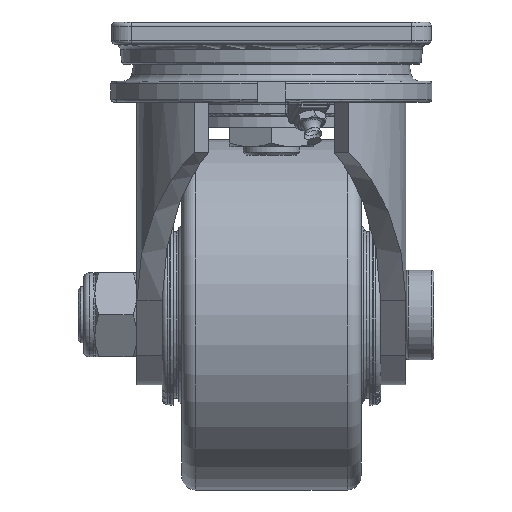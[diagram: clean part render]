
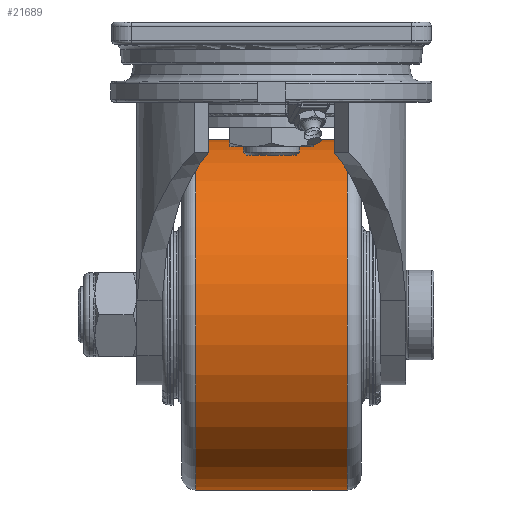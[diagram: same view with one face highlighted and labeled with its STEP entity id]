
A CAD part, left-side view. The second image highlights one B-rep face of the part: STEP entity #21689.
In plain terms, the highlighted cylindrical face has radius 62.5 mm (diameter 125 mm), a full revolution.
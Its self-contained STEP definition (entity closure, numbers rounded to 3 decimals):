
#2126=LINE('',#30266,#3757);
#3757=VECTOR('',#24981,62.5);
#5325=CYLINDRICAL_SURFACE('',#23057,62.5);
#5560=FACE_OUTER_BOUND('',#6845,.T.);
#6845=EDGE_LOOP('',(#14957,#14958,#14959,#14960,#14961,#14962));
#8234=CIRCLE('',#23054,62.5);
#8235=CIRCLE('',#23055,62.5);
#8237=CIRCLE('',#23058,62.5);
#8238=CIRCLE('',#23059,62.5);
#9148=VERTEX_POINT('',#30256);
#9149=VERTEX_POINT('',#30257);
#9150=VERTEX_POINT('',#30262);
#9151=VERTEX_POINT('',#30263);
#11403=EDGE_CURVE('',#9148,#9149,#8234,.T.);
#11404=EDGE_CURVE('',#9149,#9148,#8235,.T.);
#11406=EDGE_CURVE('',#9150,#9151,#8237,.T.);
#11407=EDGE_CURVE('',#9151,#9150,#8238,.T.);
#11408=EDGE_CURVE('',#9151,#9149,#2126,.T.);
#14957=ORIENTED_EDGE('',*,*,#11406,.F.);
#14958=ORIENTED_EDGE('',*,*,#11407,.F.);
#14959=ORIENTED_EDGE('',*,*,#11408,.T.);
#14960=ORIENTED_EDGE('',*,*,#11404,.T.);
#14961=ORIENTED_EDGE('',*,*,#11403,.T.);
#14962=ORIENTED_EDGE('',*,*,#11408,.F.);
#21689=ADVANCED_FACE('',(#5560),#5325,.T.);
#23054=AXIS2_PLACEMENT_3D('',#30258,#24969,#24970);
#23055=AXIS2_PLACEMENT_3D('',#30259,#24971,#24972);
#23057=AXIS2_PLACEMENT_3D('',#30261,#24975,#24976);
#23058=AXIS2_PLACEMENT_3D('',#30264,#24977,#24978);
#23059=AXIS2_PLACEMENT_3D('',#30265,#24979,#24980);
#24969=DIRECTION('center_axis',(0.,-1.,0.));
#24970=DIRECTION('ref_axis',(1.,0.,0.));
#24971=DIRECTION('center_axis',(0.,-1.,0.));
#24972=DIRECTION('ref_axis',(1.,0.,0.));
#24975=DIRECTION('center_axis',(0.,-1.,0.));
#24976=DIRECTION('ref_axis',(0.,0.,
-1.));
#24977=DIRECTION('center_axis',(0.,-1.,0.));
#24978=DIRECTION('ref_axis',(1.,0.,0.));
#24979=DIRECTION('center_axis',(0.,-1.,0.));
#24980=DIRECTION('ref_axis',(1.,0.,0.));
#24981=DIRECTION('',(0.,1.,0.));
#30256=CARTESIAN_POINT('',(44.195,27.,-137.));
#30257=CARTESIAN_POINT('',(44.195,27.,-12.));
#30258=CARTESIAN_POINT('Origin',(44.195,27.,-74.5));
#30259=CARTESIAN_POINT('Origin',(44.195,27.,-74.5));
#30261=CARTESIAN_POINT('Origin',(44.195,0.,
-74.5));
#30262=CARTESIAN_POINT('',(44.195,-27.,-137.));
#30263=CARTESIAN_POINT('',(44.195,-27.,-12.));
#30264=CARTESIAN_POINT('Origin',(44.195,-27.,-74.5));
#30265=CARTESIAN_POINT('Origin',(44.195,-27.,-74.5));
#30266=CARTESIAN_POINT('',(44.195,0.,-12.));
